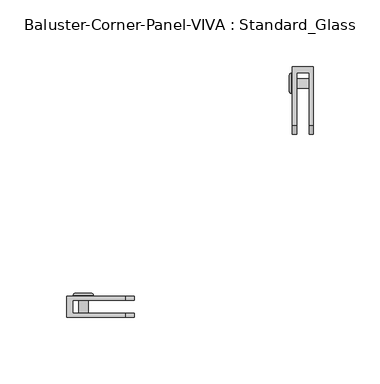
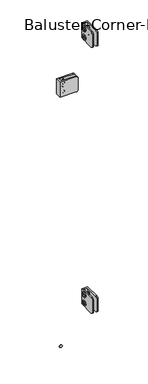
"""IFC4 building model written with IfcOpenShell, lengths in millimetres: railing geometry, Baluster-Corner-Panel-VIVA : Standard_Glass."""

from ifc_helpers import new_model, si_unit, point, frame, origin, place, context, project, spatial, polyline, circle_curve, ellipse_curve, trimmed, outline, extrude, source, transform, mapped, element, save
from ifc_brep_helpers import plane_surface, cylinder_surface, revolved_surface, advanced_brep


def baluster_corner_panel_viva_standard_glass_bf03b390(model_context):
    return source(origin(), model_context, "Body", "SolidModel", [
        extrude(outline(polyline([(140.0607691, 917.178125), (138.0138049, 913.6326791), (133.9198767, 913.6326791), (131.8729125, 917.178125), (133.9198767, 920.7235709), (138.0138049, 920.7235709), (140.0607691, 917.178125)])), frame((21.7024185, 0.0, 0.0), z_axis=(1.0, 0.0, 0.0), x_axis=(0.0, 1.0, 0.0)), (0.0, 0.0, 1.0), 1.4969696),
        advanced_brep(
        [(36.7665, 139.5122867, 917.178125), (36.7665, 132.4213949, 917.178125), (24.0665, 132.4213949, 917.178125), (24.0665, 139.5122867, 917.178125), (24.0665, 128.5590517, 917.178125), (24.0665, 143.3746299, 917.178125), (23.199388, 137.6229162, 917.178125), (23.199388, 134.3107654, 917.178125), (36.7665, 134.3107654, 917.178125), (36.7665, 137.6229162, 917.178125), (23.2316551, 143.3746299, 917.178125), (23.2316551, 128.5590517, 917.178125), (21.9503831, 129.8403237, 917.178125), (21.9503831, 142.0933579, 917.178125), (21.9503831, 131.6682453, 917.178125), (21.9503831, 140.2654363, 917.178125), (23.199388, 131.6682453, 917.178125), (23.199388, 140.2654363, 917.178125)],
        [
            (0, 1, circle_curve(frame((36.7665, 135.9668408, 917.178125), z_axis=(-1.0, 0.0, 0.0), x_axis=(0.0, -1.0, 0.0)), 3.5454459)),
            (1, 2),
            (2, 3, circle_curve(frame((24.0665, 135.9668408, 917.178125), z_axis=(1.0, 0.0, 0.0), x_axis=(0.0, -1.0, 0.0)), 3.5454459)),
            (3, 0),
            (1, 0, circle_curve(frame((36.7665, 135.9668408, 917.178125), z_axis=(-1.0, 0.0, 0.0), x_axis=(0.0, -1.0, 0.0)), 3.5454459)),
            (3, 2, circle_curve(frame((24.0665, 135.9668408, 917.178125), z_axis=(1.0, 0.0, 0.0), x_axis=(0.0, -1.0, 0.0)), 3.5454459)),
            (2, 4),
            (4, 5, circle_curve(frame((24.0665, 135.9668408, 917.178125), z_axis=(1.0, 0.0, 0.0), x_axis=(0.0, -1.0, 0.0)), 7.4077891)),
            (5, 3),
            (5, 4, circle_curve(frame((24.0665, 135.9668408, 917.178125), z_axis=(1.0, 0.0, 0.0), x_axis=(0.0, -1.0, 0.0)), 7.4077891)),
            (6, 7, circle_curve(frame((23.199388, 135.9668408, 917.178125), z_axis=(-1.0, 0.0, 0.0), x_axis=(0.0, -1.0, 0.0)), 1.6560754)),
            (7, 8),
            (8, 9, circle_curve(frame((36.7665, 135.9668408, 917.178125), z_axis=(1.0, 0.0, 0.0), x_axis=(0.0, -1.0, 0.0)), 1.6560754)),
            (9, 6),
            (7, 6, circle_curve(frame((23.199388, 135.9668408, 917.178125), z_axis=(-1.0, 0.0, 0.0), x_axis=(0.0, -1.0, 0.0)), 1.6560754)),
            (9, 8, circle_curve(frame((36.7665, 135.9668408, 917.178125), z_axis=(1.0, 0.0, 0.0), x_axis=(0.0, -1.0, 0.0)), 1.6560754)),
            (10, 11, circle_curve(frame((23.2316551, 135.9668408, 917.178125), z_axis=(-1.0, 0.0, 0.0), x_axis=(0.0, -1.0, 0.0)), 7.4077891)),
            (11, 12, circle_curve(frame((23.2316551, 129.8403237, 917.178125), z_axis=(0.0, 0.0, -1.0), x_axis=(0.0, -1.0, 0.0)), 1.281272)),
            (12, 13, circle_curve(frame((21.9503831, 135.9668408, 917.178125), z_axis=(1.0, 0.0, 0.0), x_axis=(0.0, -1.0, 0.0)), 6.1265171)),
            (13, 10, circle_curve(frame((23.2316551, 142.0933579, 917.178125), z_axis=(0.0, 0.0, -1.0), x_axis=(0.0, 1.0, 0.0)), 1.281272)),
            (11, 10, circle_curve(frame((23.2316551, 135.9668408, 917.178125), z_axis=(-1.0, 0.0, 0.0), x_axis=(0.0, -1.0, 0.0)), 7.4077891)),
            (13, 12, circle_curve(frame((21.9503831, 135.9668408, 917.178125), z_axis=(1.0, 0.0, 0.0), x_axis=(0.0, -1.0, 0.0)), 6.1265171)),
            (12, 14),
            (14, 15, circle_curve(frame((21.9503831, 135.9668408, 917.178125), z_axis=(1.0, 0.0, 0.0), x_axis=(0.0, -1.0, 0.0)), 4.2985955)),
            (15, 13),
            (15, 14, circle_curve(frame((21.9503831, 135.9668408, 917.178125), z_axis=(1.0, 0.0, 0.0), x_axis=(0.0, -1.0, 0.0)), 4.2985955)),
            (4, 11),
            (10, 5),
            (8, 1),
            (0, 9),
            (14, 16),
            (16, 17, circle_curve(frame((23.199388, 135.9668408, 917.178125), z_axis=(1.0, 0.0, 0.0), x_axis=(0.0, -1.0, 0.0)), 4.2985955)),
            (17, 15),
            (17, 16, circle_curve(frame((23.199388, 135.9668408, 917.178125), z_axis=(1.0, 0.0, 0.0), x_axis=(0.0, -1.0, 0.0)), 4.2985955)),
            (16, 7),
            (6, 17),
        ],
        [
            cylinder_surface(frame((27.5632331, 135.9668408, 917.178125), z_axis=(1.0, 0.0, 0.0), x_axis=(0.0, -1.0, 0.0)), 3.5454459),
            plane_surface(frame((24.0665, 135.9668408, 917.178125), z_axis=(1.0, 0.0, 0.0), x_axis=(0.0, -1.0, 0.0))),
            revolved_surface(polyline([(36.7665, 134.3107654, 917.178125), (23.199388, 134.3107654, 917.178125)]), (27.5632331, 135.9668408, 917.178125), (1.0, 0.0, 0.0)),
            revolved_surface(trimmed(ellipse_curve(frame((23.2316551, 129.8403237, 917.178125), z_axis=(0.0, 0.0, 1.0), x_axis=(0.0, -1.0, 0.0)), 1.281272, 1.281272), [point((21.9503831, 129.8403237, 917.178125))], [point((23.2316551, 128.5590517, 917.178125))], True, "CARTESIAN"), (27.5632331, 135.9668408, 917.178125), (1.0, 0.0, 0.0)),
            plane_surface(frame((21.9503831, 135.9668408, 917.178125), z_axis=(-1.0, 0.0, 0.0), x_axis=(0.0, -1.0, 0.0))),
            cylinder_surface(frame((27.5632331, 135.9668408, 917.178125), z_axis=(1.0, 0.0, 0.0), x_axis=(0.0, -1.0, 0.0)), 7.4077891),
            plane_surface(frame((36.7665, 135.9668408, 917.178125), z_axis=(1.0, 0.0, 0.0), x_axis=(0.0, -1.0, 0.0))),
            revolved_surface(polyline([(23.199388, 131.6682453, 917.178125), (21.9503831, 131.6682453, 917.178125)]), (27.5632331, 135.9668408, 917.178125), (1.0, 0.0, 0.0)),
            plane_surface(frame((23.199388, 135.9668408, 917.178125), z_axis=(-1.0, 0.0, 0.0), x_axis=(0.0, -1.0, 0.0))),
        ],
        [
            (0, [[1, 2, 3, 4]]),
            (0, [[5, -4, 6, -2]]),
            (1, [[-3, 7, 8, 9]]),
            (1, [[-6, -9, 10, -7]]),
            (2, [[11, 12, 13, 14]]),
            (2, [[15, -14, 16, -12]]),
            (3, [[17, 18, 19, 20]]),
            (3, [[21, -20, 22, -18]]),
            (4, [[-19, 23, 24, 25]]),
            (4, [[-22, -25, 26, -23]]),
            (5, [[-8, 27, -17, 28]]),
            (5, [[-10, -28, -21, -27]]),
            (6, [[-13, 29, -1, 30]]),
            (6, [[-16, -30, -5, -29]]),
            (7, [[-24, 31, 32, 33]]),
            (7, [[-26, -33, 34, -31]]),
            (8, [[-32, 35, -11, 36]]),
            (8, [[-34, -36, -15, -35]]),
        ],
    ),
        advanced_brep(
        [(36.7665, 139.5122867, 892.571875), (36.7665, 132.4213949, 892.571875), (24.0665, 132.4213949, 892.571875), (24.0665, 139.5122867, 892.571875), (24.0665, 128.5590517, 892.571875), (24.0665, 143.3746299, 892.571875), (23.199388, 137.6229162, 892.571875), (23.199388, 134.3107654, 892.571875), (36.7665, 134.3107654, 892.571875), (36.7665, 137.6229162, 892.571875), (23.2316551, 143.3746299, 892.571875), (23.2316551, 128.5590517, 892.571875), (21.9503831, 129.8403237, 892.571875), (21.9503831, 142.0933579, 892.571875), (21.9503831, 131.6682453, 892.571875), (21.9503831, 140.2654363, 892.571875), (23.199388, 131.6682453, 892.571875), (23.199388, 140.2654363, 892.571875)],
        [
            (0, 1, circle_curve(frame((36.7665, 135.9668408, 892.571875), z_axis=(-1.0, 0.0, 0.0), x_axis=(0.0, -1.0, 0.0)), 3.5454459)),
            (1, 2),
            (2, 3, circle_curve(frame((24.0665, 135.9668408, 892.571875), z_axis=(1.0, 0.0, 0.0), x_axis=(0.0, -1.0, 0.0)), 3.5454459)),
            (3, 0),
            (1, 0, circle_curve(frame((36.7665, 135.9668408, 892.571875), z_axis=(-1.0, 0.0, 0.0), x_axis=(0.0, -1.0, 0.0)), 3.5454459)),
            (3, 2, circle_curve(frame((24.0665, 135.9668408, 892.571875), z_axis=(1.0, 0.0, 0.0), x_axis=(0.0, -1.0, 0.0)), 3.5454459)),
            (2, 4),
            (4, 5, circle_curve(frame((24.0665, 135.9668408, 892.571875), z_axis=(1.0, 0.0, 0.0), x_axis=(0.0, -1.0, 0.0)), 7.4077891)),
            (5, 3),
            (5, 4, circle_curve(frame((24.0665, 135.9668408, 892.571875), z_axis=(1.0, 0.0, 0.0), x_axis=(0.0, -1.0, 0.0)), 7.4077891)),
            (6, 7, circle_curve(frame((23.199388, 135.9668408, 892.571875), z_axis=(-1.0, 0.0, 0.0), x_axis=(0.0, -1.0, 0.0)), 1.6560754)),
            (7, 8),
            (8, 9, circle_curve(frame((36.7665, 135.9668408, 892.571875), z_axis=(1.0, 0.0, 0.0), x_axis=(0.0, -1.0, 0.0)), 1.6560754)),
            (9, 6),
            (7, 6, circle_curve(frame((23.199388, 135.9668408, 892.571875), z_axis=(-1.0, 0.0, 0.0), x_axis=(0.0, -1.0, 0.0)), 1.6560754)),
            (9, 8, circle_curve(frame((36.7665, 135.9668408, 892.571875), z_axis=(1.0, 0.0, 0.0), x_axis=(0.0, -1.0, 0.0)), 1.6560754)),
            (10, 11, circle_curve(frame((23.2316551, 135.9668408, 892.571875), z_axis=(-1.0, 0.0, 0.0), x_axis=(0.0, -1.0, 0.0)), 7.4077891)),
            (11, 12, circle_curve(frame((23.2316551, 129.8403237, 892.571875), z_axis=(0.0, 0.0, -1.0), x_axis=(0.0, -1.0, 0.0)), 1.281272)),
            (12, 13, circle_curve(frame((21.9503831, 135.9668408, 892.571875), z_axis=(1.0, 0.0, 0.0), x_axis=(0.0, -1.0, 0.0)), 6.1265171)),
            (13, 10, circle_curve(frame((23.2316551, 142.0933579, 892.571875), z_axis=(0.0, 0.0, -1.0), x_axis=(0.0, 1.0, 0.0)), 1.281272)),
            (11, 10, circle_curve(frame((23.2316551, 135.9668408, 892.571875), z_axis=(-1.0, 0.0, 0.0), x_axis=(0.0, -1.0, 0.0)), 7.4077891)),
            (13, 12, circle_curve(frame((21.9503831, 135.9668408, 892.571875), z_axis=(1.0, 0.0, 0.0), x_axis=(0.0, -1.0, 0.0)), 6.1265171)),
            (12, 14),
            (14, 15, circle_curve(frame((21.9503831, 135.9668408, 892.571875), z_axis=(1.0, 0.0, 0.0), x_axis=(0.0, -1.0, 0.0)), 4.2985955)),
            (15, 13),
            (15, 14, circle_curve(frame((21.9503831, 135.9668408, 892.571875), z_axis=(1.0, 0.0, 0.0), x_axis=(0.0, -1.0, 0.0)), 4.2985955)),
            (8, 1),
            (0, 9),
            (4, 11),
            (10, 5),
            (14, 16),
            (16, 17, circle_curve(frame((23.199388, 135.9668408, 892.571875), z_axis=(1.0, 0.0, 0.0), x_axis=(0.0, -1.0, 0.0)), 4.2985955)),
            (17, 15),
            (17, 16, circle_curve(frame((23.199388, 135.9668408, 892.571875), z_axis=(1.0, 0.0, 0.0), x_axis=(0.0, -1.0, 0.0)), 4.2985955)),
            (16, 7),
            (6, 17),
        ],
        [
            cylinder_surface(frame((27.5632331, 135.9668408, 892.571875), z_axis=(1.0, 0.0, 0.0), x_axis=(0.0, -1.0, 0.0)), 3.5454459),
            plane_surface(frame((24.0665, 135.9668408, 892.571875), z_axis=(1.0, 0.0, 0.0), x_axis=(0.0, -1.0, 0.0))),
            revolved_surface(polyline([(36.7665, 134.3107654, 892.571875), (23.199388, 134.3107654, 892.571875)]), (27.5632331, 135.9668408, 892.571875), (1.0, 0.0, 0.0)),
            revolved_surface(trimmed(ellipse_curve(frame((23.2316551, 129.8403237, 892.571875), z_axis=(0.0, 0.0, 1.0), x_axis=(0.0, -1.0, 0.0)), 1.281272, 1.281272), [point((21.9503831, 129.8403237, 892.571875))], [point((23.2316551, 128.5590517, 892.571875))], True, "CARTESIAN"), (27.5632331, 135.9668408, 892.571875), (1.0, 0.0, 0.0)),
            plane_surface(frame((21.9503831, 135.9668408, 892.571875), z_axis=(-1.0, 0.0, 0.0), x_axis=(0.0, -1.0, 0.0))),
            plane_surface(frame((36.7665, 135.9668408, 892.571875), z_axis=(1.0, 0.0, 0.0), x_axis=(0.0, -1.0, 0.0))),
            cylinder_surface(frame((27.5632331, 135.9668408, 892.571875), z_axis=(1.0, 0.0, 0.0), x_axis=(0.0, -1.0, 0.0)), 7.4077891),
            revolved_surface(polyline([(23.199388, 131.6682453, 892.571875), (21.9503831, 131.6682453, 892.571875)]), (27.5632331, 135.9668408, 892.571875), (1.0, 0.0, 0.0)),
            plane_surface(frame((23.199388, 135.9668408, 892.571875), z_axis=(-1.0, 0.0, 0.0), x_axis=(0.0, -1.0, 0.0))),
        ],
        [
            (0, [[1, 2, 3, 4]]),
            (0, [[5, -4, 6, -2]]),
            (1, [[-3, 7, 8, 9]]),
            (1, [[-6, -9, 10, -7]]),
            (2, [[11, 12, 13, 14]]),
            (2, [[15, -14, 16, -12]]),
            (3, [[17, 18, 19, 20]]),
            (3, [[21, -20, 22, -18]]),
            (4, [[-19, 23, 24, 25]]),
            (4, [[-22, -25, 26, -23]]),
            (5, [[-13, 27, -1, 28]]),
            (5, [[-16, -28, -5, -27]]),
            (6, [[-8, 29, -17, 30]]),
            (6, [[-10, -30, -21, -29]]),
            (7, [[-24, 31, 32, 33]]),
            (7, [[-26, -33, 34, -31]]),
            (8, [[-32, 35, -11, 36]]),
            (8, [[-34, -36, -15, -35]]),
        ],
    ),
        extrude(outline(polyline([(140.0607691, 892.571875), (138.0138049, 889.0264291), (133.9198767, 889.0264291), (131.8729125, 892.571875), (133.9198767, 896.1173209), (138.0138049, 896.1173209), (140.0607691, 892.571875)])), frame((21.7024185, 0.0, 0.0), z_axis=(1.0, 0.0, 0.0), x_axis=(0.0, 1.0, 0.0)), (0.0, 0.0, 1.0), 1.4969696),
        advanced_brep(
        [(24.0665, 148.6001856, 927.1), (24.0665, 148.6001856, 882.65), (24.0665, 104.1501856, 882.65), (24.0665, 97.8001856, 889.0), (24.0665, 97.8001856, 920.75), (24.0665, 104.1501856, 927.1), (39.9415, 148.6001856, 927.1), (39.9415, 104.1501856, 927.1), (39.9415, 97.8001856, 920.75), (39.9415, 97.8001856, 889.0), (39.9415, 104.1501856, 882.65), (39.9415, 148.6001856, 882.65), (36.7665, 104.1501856, 882.65), (36.7665, 143.8821052, 882.65), (27.2415, 143.8821052, 882.65), (27.2415, 104.1501856, 882.65), (36.7665, 143.8821052, 927.1), (27.2415, 143.8821052, 927.1), (27.2415, 104.1501856, 927.1), (27.2415, 97.8001856, 920.75), (27.2415, 97.8001856, 889.0), (36.7665, 97.8001856, 889.0), (36.7665, 97.8001856, 920.75), (36.7665, 104.1501856, 927.1)],
        [
            (0, 1),
            (1, 2),
            (2, 3, circle_curve(frame((24.0665, 104.1501856, 889.0), z_axis=(-1.0, 0.0, 0.0), x_axis=(0.0, -1.0, 0.0)), 6.35)),
            (3, 4),
            (4, 5, circle_curve(frame((24.0665, 104.1501856, 920.75), z_axis=(-1.0, 0.0, 0.0), x_axis=(0.0, -1.0, 0.0)), 6.35)),
            (5, 0),
            (6, 7),
            (7, 8, circle_curve(frame((39.9415, 104.1501856, 920.75), z_axis=(1.0, 0.0, 0.0), x_axis=(0.0, -1.0, 0.0)), 6.35)),
            (8, 9),
            (9, 10, circle_curve(frame((39.9415, 104.1501856, 889.0), z_axis=(1.0, 0.0, 0.0), x_axis=(0.0, -1.0, 0.0)), 6.35)),
            (10, 11),
            (11, 6),
            (0, 6),
            (11, 1),
            (10, 12),
            (12, 13),
            (13, 14),
            (14, 15),
            (15, 2),
            (13, 16),
            (16, 17),
            (17, 14),
            (17, 18),
            (18, 19, circle_curve(frame((27.2415, 104.1501856, 920.75), z_axis=(1.0, 0.0, 0.0), x_axis=(0.0, -1.0, 0.0)), 6.35)),
            (19, 20),
            (20, 15, circle_curve(frame((27.2415, 104.1501856, 889.0), z_axis=(1.0, 0.0, 0.0), x_axis=(0.0, -1.0, 0.0)), 6.35)),
            (12, 21, circle_curve(frame((36.7665, 104.1501856, 889.0), z_axis=(-1.0, 0.0, 0.0), x_axis=(0.0, -1.0, 0.0)), 6.35)),
            (21, 22),
            (22, 23, circle_curve(frame((36.7665, 104.1501856, 920.75), z_axis=(-1.0, 0.0, 0.0), x_axis=(0.0, -1.0, 0.0)), 6.35)),
            (23, 16),
            (20, 3),
            (9, 21),
            (19, 4),
            (8, 22),
            (18, 5),
            (7, 23),
        ],
        [
            plane_surface(frame((24.0665, 148.6001856, 882.65), z_axis=(-1.0, 0.0, 0.0), x_axis=(0.0, 0.0, -1.0))),
            plane_surface(frame((39.9415, 148.6001856, 882.65), z_axis=(1.0, 0.0, 0.0), x_axis=(0.0, 0.0, 1.0))),
            plane_surface(frame((24.0665, 148.6001856, 927.1), z_axis=(0.0, 1.0, 0.0), x_axis=(1.0, 0.0, 0.0))),
            plane_surface(frame((24.0665, 148.6001856, 882.65), z_axis=(0.0, 0.0, -1.0), x_axis=(1.0, 0.0, 0.0))),
            plane_surface(frame((36.7665, 143.8821052, 939.8), z_axis=(0.0, -1.0, 0.0), x_axis=(0.0, 0.0, -1.0))),
            plane_surface(frame((27.2415, 143.8821052, 939.8), z_axis=(1.0, 0.0, 0.0), x_axis=(0.0, 0.0, -1.0))),
            plane_surface(frame((36.7665, 85.1001856, 939.8), z_axis=(-1.0, 0.0, 0.0), x_axis=(0.0, 0.0, -1.0))),
            cylinder_surface(frame((39.9415, 104.1501856, 889.0), z_axis=(-1.0, 0.0, 0.0), x_axis=(0.0, -1.0, 0.0)), 6.35),
            plane_surface(frame((24.0665, 97.8001856, 889.0), z_axis=(0.0, -1.0, 0.0), x_axis=(1.0, 0.0, 0.0))),
            cylinder_surface(frame((39.9415, 104.1501856, 920.75), z_axis=(-1.0, 0.0, 0.0), x_axis=(0.0, -1.0, 0.0)), 6.35),
            plane_surface(frame((24.0665, 104.1501856, 927.1), z_axis=(0.0, 0.0, 1.0), x_axis=(1.0, 0.0, 0.0))),
        ],
        [
            (0, [[1, 2, 3, 4, 5, 6]]),
            (1, [[7, 8, 9, 10, 11, 12]]),
            (2, [[-1, 13, -12, 14]]),
            (3, [[-2, -14, -11, 15, 16, 17, 18, 19]]),
            (4, [[20, 21, 22, -17]]),
            (5, [[-22, 23, 24, 25, 26, -18]]),
            (6, [[-20, -16, 27, 28, 29, 30]]),
            (7, [[-3, -19, -26, 31]]),
            (7, [[-10, 32, -27, -15]]),
            (8, [[-4, -31, -25, 33]]),
            (8, [[-9, 34, -28, -32]]),
            (9, [[-5, -33, -24, 35]]),
            (9, [[-8, 36, -29, -34]]),
            (10, [[-6, -35, -23, -21, -30, -36, -7, -13]]),
        ],
    ),
        extrude(outline(polyline([(140.0607691, 138.7358896), (138.0138049, 135.1904437), (133.9198767, 135.1904437), (131.8729125, 138.7358896), (133.9198767, 142.2813355), (138.0138049, 142.2813355), (140.0607691, 138.7358896)])), frame((21.7024185, 0.0, 0.0), z_axis=(1.0, 0.0, 0.0), x_axis=(0.0, 1.0, 0.0)), (0.0, 0.0, 1.0), 1.4969696),
        advanced_brep(
        [(36.7665, 139.5122867, 138.7358896), (36.7665, 132.4213949, 138.7358896), (24.0665, 132.4213949, 138.7358896), (24.0665, 139.5122867, 138.7358896), (24.0665, 128.5590517, 138.7358896), (24.0665, 143.3746299, 138.7358896), (23.199388, 137.6229162, 138.7358896), (23.199388, 134.3107654, 138.7358896), (36.7665, 134.3107654, 138.7358896), (36.7665, 137.6229162, 138.7358896), (23.2316551, 143.3746299, 138.7358896), (23.2316551, 128.5590517, 138.7358896), (21.9503831, 129.8403237, 138.7358896), (21.9503831, 142.0933579, 138.7358896), (21.9503831, 131.6682453, 138.7358896), (21.9503831, 140.2654363, 138.7358896), (23.199388, 131.6682453, 138.7358896), (23.199388, 140.2654363, 138.7358896)],
        [
            (0, 1, circle_curve(frame((36.7665, 135.9668408, 138.7358896), z_axis=(-1.0, 0.0, 0.0), x_axis=(0.0, -1.0, 0.0)), 3.5454459)),
            (1, 2),
            (2, 3, circle_curve(frame((24.0665, 135.9668408, 138.7358896), z_axis=(1.0, 0.0, 0.0), x_axis=(0.0, -1.0, 0.0)), 3.5454459)),
            (3, 0),
            (1, 0, circle_curve(frame((36.7665, 135.9668408, 138.7358896), z_axis=(-1.0, 0.0, 0.0), x_axis=(0.0, -1.0, 0.0)), 3.5454459)),
            (3, 2, circle_curve(frame((24.0665, 135.9668408, 138.7358896), z_axis=(1.0, 0.0, 0.0), x_axis=(0.0, -1.0, 0.0)), 3.5454459)),
            (2, 4),
            (4, 5, circle_curve(frame((24.0665, 135.9668408, 138.7358896), z_axis=(1.0, 0.0, 0.0), x_axis=(0.0, -1.0, 0.0)), 7.4077891)),
            (5, 3),
            (5, 4, circle_curve(frame((24.0665, 135.9668408, 138.7358896), z_axis=(1.0, 0.0, 0.0), x_axis=(0.0, -1.0, 0.0)), 7.4077891)),
            (6, 7, circle_curve(frame((23.199388, 135.9668408, 138.7358896), z_axis=(-1.0, 0.0, 0.0), x_axis=(0.0, -1.0, 0.0)), 1.6560754)),
            (7, 8),
            (8, 9, circle_curve(frame((36.7665, 135.9668408, 138.7358896), z_axis=(1.0, 0.0, 0.0), x_axis=(0.0, -1.0, 0.0)), 1.6560754)),
            (9, 6),
            (7, 6, circle_curve(frame((23.199388, 135.9668408, 138.7358896), z_axis=(-1.0, 0.0, 0.0), x_axis=(0.0, -1.0, 0.0)), 1.6560754)),
            (9, 8, circle_curve(frame((36.7665, 135.9668408, 138.7358896), z_axis=(1.0, 0.0, 0.0), x_axis=(0.0, -1.0, 0.0)), 1.6560754)),
            (10, 11, circle_curve(frame((23.2316551, 135.9668408, 138.7358896), z_axis=(-1.0, 0.0, 0.0), x_axis=(0.0, -1.0, 0.0)), 7.4077891)),
            (11, 12, circle_curve(frame((23.2316551, 129.8403237, 138.7358896), z_axis=(0.0, 0.0, -1.0), x_axis=(0.0, -1.0, 0.0)), 1.281272)),
            (12, 13, circle_curve(frame((21.9503831, 135.9668408, 138.7358896), z_axis=(1.0, 0.0, 0.0), x_axis=(0.0, -1.0, 0.0)), 6.1265171)),
            (13, 10, circle_curve(frame((23.2316551, 142.0933579, 138.7358896), z_axis=(0.0, 0.0, -1.0), x_axis=(0.0, 1.0, 0.0)), 1.281272)),
            (11, 10, circle_curve(frame((23.2316551, 135.9668408, 138.7358896), z_axis=(-1.0, 0.0, 0.0), x_axis=(0.0, -1.0, 0.0)), 7.4077891)),
            (13, 12, circle_curve(frame((21.9503831, 135.9668408, 138.7358896), z_axis=(1.0, 0.0, 0.0), x_axis=(0.0, -1.0, 0.0)), 6.1265171)),
            (12, 14),
            (14, 15, circle_curve(frame((21.9503831, 135.9668408, 138.7358896), z_axis=(1.0, 0.0, 0.0), x_axis=(0.0, -1.0, 0.0)), 4.2985955)),
            (15, 13),
            (15, 14, circle_curve(frame((21.9503831, 135.9668408, 138.7358896), z_axis=(1.0, 0.0, 0.0), x_axis=(0.0, -1.0, 0.0)), 4.2985955)),
            (4, 11),
            (10, 5),
            (8, 1),
            (0, 9),
            (14, 16),
            (16, 17, circle_curve(frame((23.199388, 135.9668408, 138.7358896), z_axis=(1.0, 0.0, 0.0), x_axis=(0.0, -1.0, 0.0)), 4.2985955)),
            (17, 15),
            (17, 16, circle_curve(frame((23.199388, 135.9668408, 138.7358896), z_axis=(1.0, 0.0, 0.0), x_axis=(0.0, -1.0, 0.0)), 4.2985955)),
            (16, 7),
            (6, 17),
        ],
        [
            cylinder_surface(frame((27.5632331, 135.9668408, 138.7358896), z_axis=(1.0, 0.0, 0.0), x_axis=(0.0, -1.0, 0.0)), 3.5454459),
            plane_surface(frame((24.0665, 135.9668408, 138.7358896), z_axis=(1.0, 0.0, 0.0), x_axis=(0.0, -1.0, 0.0))),
            revolved_surface(polyline([(36.7665, 134.3107654, 138.7358896), (23.199388, 134.3107654, 138.7358896)]), (27.5632331, 135.9668408, 138.7358896), (1.0, 0.0, 0.0)),
            revolved_surface(trimmed(ellipse_curve(frame((23.2316551, 129.8403237, 138.7358896), z_axis=(0.0, 0.0, 1.0), x_axis=(0.0, -1.0, 0.0)), 1.281272, 1.281272), [point((21.9503831, 129.8403237, 138.7358896))], [point((23.2316551, 128.5590517, 138.7358896))], True, "CARTESIAN"), (27.5632331, 135.9668408, 138.7358896), (1.0, 0.0, 0.0)),
            plane_surface(frame((21.9503831, 135.9668408, 138.7358896), z_axis=(-1.0, 0.0, 0.0), x_axis=(0.0, -1.0, 0.0))),
            cylinder_surface(frame((27.5632331, 135.9668408, 138.7358896), z_axis=(1.0, 0.0, 0.0), x_axis=(0.0, -1.0, 0.0)), 7.4077891),
            plane_surface(frame((36.7665, 135.9668408, 138.7358896), z_axis=(1.0, 0.0, 0.0), x_axis=(0.0, -1.0, 0.0))),
            revolved_surface(polyline([(23.199388, 131.6682453, 138.7358896), (21.9503831, 131.6682453, 138.7358896)]), (27.5632331, 135.9668408, 138.7358896), (1.0, 0.0, 0.0)),
            plane_surface(frame((23.199388, 135.9668408, 138.7358896), z_axis=(-1.0, 0.0, 0.0), x_axis=(0.0, -1.0, 0.0))),
        ],
        [
            (0, [[1, 2, 3, 4]]),
            (0, [[5, -4, 6, -2]]),
            (1, [[-3, 7, 8, 9]]),
            (1, [[-6, -9, 10, -7]]),
            (2, [[11, 12, 13, 14]]),
            (2, [[15, -14, 16, -12]]),
            (3, [[17, 18, 19, 20]]),
            (3, [[21, -20, 22, -18]]),
            (4, [[-19, 23, 24, 25]]),
            (4, [[-22, -25, 26, -23]]),
            (5, [[-8, 27, -17, 28]]),
            (5, [[-10, -28, -21, -27]]),
            (6, [[-13, 29, -1, 30]]),
            (6, [[-16, -30, -5, -29]]),
            (7, [[-24, 31, 32, 33]]),
            (7, [[-26, -33, 34, -31]]),
            (8, [[-32, 35, -11, 36]]),
            (8, [[-34, -36, -15, -35]]),
        ],
    ),
        advanced_brep(
        [(36.7665, 139.5122867, 114.1296396), (36.7665, 132.4213949, 114.1296396), (24.0665, 132.4213949, 114.1296396), (24.0665, 139.5122867, 114.1296396), (24.0665, 128.5590517, 114.1296396), (24.0665, 143.3746299, 114.1296396), (23.199388, 137.6229162, 114.1296396), (23.199388, 134.3107654, 114.1296396), (36.7665, 134.3107654, 114.1296396), (36.7665, 137.6229162, 114.1296396), (23.2316551, 143.3746299, 114.1296396), (23.2316551, 128.5590517, 114.1296396), (21.9503831, 129.8403237, 114.1296396), (21.9503831, 142.0933579, 114.1296396), (21.9503831, 131.6682453, 114.1296396), (21.9503831, 140.2654363, 114.1296396), (23.199388, 131.6682453, 114.1296396), (23.199388, 140.2654363, 114.1296396)],
        [
            (0, 1, circle_curve(frame((36.7665, 135.9668408, 114.1296396), z_axis=(-1.0, 0.0, 0.0), x_axis=(0.0, -1.0, 0.0)), 3.5454459)),
            (1, 2),
            (2, 3, circle_curve(frame((24.0665, 135.9668408, 114.1296396), z_axis=(1.0, 0.0, 0.0), x_axis=(0.0, -1.0, 0.0)), 3.5454459)),
            (3, 0),
            (1, 0, circle_curve(frame((36.7665, 135.9668408, 114.1296396), z_axis=(-1.0, 0.0, 0.0), x_axis=(0.0, -1.0, 0.0)), 3.5454459)),
            (3, 2, circle_curve(frame((24.0665, 135.9668408, 114.1296396), z_axis=(1.0, 0.0, 0.0), x_axis=(0.0, -1.0, 0.0)), 3.5454459)),
            (2, 4),
            (4, 5, circle_curve(frame((24.0665, 135.9668408, 114.1296396), z_axis=(1.0, 0.0, 0.0), x_axis=(0.0, -1.0, 0.0)), 7.4077891)),
            (5, 3),
            (5, 4, circle_curve(frame((24.0665, 135.9668408, 114.1296396), z_axis=(1.0, 0.0, 0.0), x_axis=(0.0, -1.0, 0.0)), 7.4077891)),
            (6, 7, circle_curve(frame((23.199388, 135.9668408, 114.1296396), z_axis=(-1.0, 0.0, 0.0), x_axis=(0.0, -1.0, 0.0)), 1.6560754)),
            (7, 8),
            (8, 9, circle_curve(frame((36.7665, 135.9668408, 114.1296396), z_axis=(1.0, 0.0, 0.0), x_axis=(0.0, -1.0, 0.0)), 1.6560754)),
            (9, 6),
            (7, 6, circle_curve(frame((23.199388, 135.9668408, 114.1296396), z_axis=(-1.0, 0.0, 0.0), x_axis=(0.0, -1.0, 0.0)), 1.6560754)),
            (9, 8, circle_curve(frame((36.7665, 135.9668408, 114.1296396), z_axis=(1.0, 0.0, 0.0), x_axis=(0.0, -1.0, 0.0)), 1.6560754)),
            (10, 11, circle_curve(frame((23.2316551, 135.9668408, 114.1296396), z_axis=(-1.0, 0.0, 0.0), x_axis=(0.0, -1.0, 0.0)), 7.4077891)),
            (11, 12, circle_curve(frame((23.2316551, 129.8403237, 114.1296396), z_axis=(0.0, 0.0, -1.0), x_axis=(0.0, -1.0, 0.0)), 1.281272)),
            (12, 13, circle_curve(frame((21.9503831, 135.9668408, 114.1296396), z_axis=(1.0, 0.0, 0.0), x_axis=(0.0, -1.0, 0.0)), 6.1265171)),
            (13, 10, circle_curve(frame((23.2316551, 142.0933579, 114.1296396), z_axis=(0.0, 0.0, -1.0), x_axis=(0.0, 1.0, 0.0)), 1.281272)),
            (11, 10, circle_curve(frame((23.2316551, 135.9668408, 114.1296396), z_axis=(-1.0, 0.0, 0.0), x_axis=(0.0, -1.0, 0.0)), 7.4077891)),
            (13, 12, circle_curve(frame((21.9503831, 135.9668408, 114.1296396), z_axis=(1.0, 0.0, 0.0), x_axis=(0.0, -1.0, 0.0)), 6.1265171)),
            (12, 14),
            (14, 15, circle_curve(frame((21.9503831, 135.9668408, 114.1296396), z_axis=(1.0, 0.0, 0.0), x_axis=(0.0, -1.0, 0.0)), 4.2985955)),
            (15, 13),
            (15, 14, circle_curve(frame((21.9503831, 135.9668408, 114.1296396), z_axis=(1.0, 0.0, 0.0), x_axis=(0.0, -1.0, 0.0)), 4.2985955)),
            (8, 1),
            (0, 9),
            (4, 11),
            (10, 5),
            (14, 16),
            (16, 17, circle_curve(frame((23.199388, 135.9668408, 114.1296396), z_axis=(1.0, 0.0, 0.0), x_axis=(0.0, -1.0, 0.0)), 4.2985955)),
            (17, 15),
            (17, 16, circle_curve(frame((23.199388, 135.9668408, 114.1296396), z_axis=(1.0, 0.0, 0.0), x_axis=(0.0, -1.0, 0.0)), 4.2985955)),
            (16, 7),
            (6, 17),
        ],
        [
            cylinder_surface(frame((27.5632331, 135.9668408, 114.1296396), z_axis=(1.0, 0.0, 0.0), x_axis=(0.0, -1.0, 0.0)), 3.5454459),
            plane_surface(frame((24.0665, 135.9668408, 114.1296396), z_axis=(1.0, 0.0, 0.0), x_axis=(0.0, -1.0, 0.0))),
            revolved_surface(polyline([(36.7665, 134.3107654, 114.1296396), (23.199388, 134.3107654, 114.1296396)]), (27.5632331, 135.9668408, 114.1296396), (1.0, 0.0, 0.0)),
            revolved_surface(trimmed(ellipse_curve(frame((23.2316551, 129.8403237, 114.1296396), z_axis=(0.0, 0.0, 1.0), x_axis=(0.0, -1.0, 0.0)), 1.281272, 1.281272), [point((21.9503831, 129.8403237, 114.1296396))], [point((23.2316551, 128.5590517, 114.1296396))], True, "CARTESIAN"), (27.5632331, 135.9668408, 114.1296396), (1.0, 0.0, 0.0)),
            plane_surface(frame((21.9503831, 135.9668408, 114.1296396), z_axis=(-1.0, 0.0, 0.0), x_axis=(0.0, -1.0, 0.0))),
            plane_surface(frame((36.7665, 135.9668408, 114.1296396), z_axis=(1.0, 0.0, 0.0), x_axis=(0.0, -1.0, 0.0))),
            cylinder_surface(frame((27.5632331, 135.9668408, 114.1296396), z_axis=(1.0, 0.0, 0.0), x_axis=(0.0, -1.0, 0.0)), 7.4077891),
            revolved_surface(polyline([(23.199388, 131.6682453, 114.1296396), (21.9503831, 131.6682453, 114.1296396)]), (27.5632331, 135.9668408, 114.1296396), (1.0, 0.0, 0.0)),
            plane_surface(frame((23.199388, 135.9668408, 114.1296396), z_axis=(-1.0, 0.0, 0.0), x_axis=(0.0, -1.0, 0.0))),
        ],
        [
            (0, [[1, 2, 3, 4]]),
            (0, [[5, -4, 6, -2]]),
            (1, [[-3, 7, 8, 9]]),
            (1, [[-6, -9, 10, -7]]),
            (2, [[11, 12, 13, 14]]),
            (2, [[15, -14, 16, -12]]),
            (3, [[17, 18, 19, 20]]),
            (3, [[21, -20, 22, -18]]),
            (4, [[-19, 23, 24, 25]]),
            (4, [[-22, -25, 26, -23]]),
            (5, [[-13, 27, -1, 28]]),
            (5, [[-16, -28, -5, -27]]),
            (6, [[-8, 29, -17, 30]]),
            (6, [[-10, -30, -21, -29]]),
            (7, [[-24, 31, 32, 33]]),
            (7, [[-26, -33, 34, -31]]),
            (8, [[-32, 35, -11, 36]]),
            (8, [[-34, -36, -15, -35]]),
        ],
    ),
        extrude(outline(polyline([(140.0607691, 114.1296396), (138.0138049, 110.5841937), (133.9198767, 110.5841937), (131.8729125, 114.1296396), (133.9198767, 117.6750855), (138.0138049, 117.6750855), (140.0607691, 114.1296396)])), frame((21.7024185, 0.0, 0.0), z_axis=(1.0, 0.0, 0.0), x_axis=(0.0, 1.0, 0.0)), (0.0, 0.0, 1.0), 1.4969696),
        advanced_brep(
        [(24.0665, 148.6001856, 148.6577646), (24.0665, 148.6001856, 104.2077646), (24.0665, 104.1501856, 104.2077646), (24.0665, 97.8001856, 110.5577646), (24.0665, 97.8001856, 142.3077646), (24.0665, 104.1501856, 148.6577646), (39.9415, 148.6001856, 148.6577646), (39.9415, 104.1501856, 148.6577646), (39.9415, 97.8001856, 142.3077646), (39.9415, 97.8001856, 110.5577646), (39.9415, 104.1501856, 104.2077646), (39.9415, 148.6001856, 104.2077646), (36.7665, 104.1501856, 104.2077646), (36.7665, 143.8821052, 104.2077646), (27.2415, 143.8821052, 104.2077646), (27.2415, 104.1501856, 104.2077646), (36.7665, 143.8821052, 148.6577646), (27.2415, 143.8821052, 148.6577646), (27.2415, 104.1501856, 148.6577646), (27.2415, 97.8001856, 142.3077646), (27.2415, 97.8001856, 110.5577646), (36.7665, 97.8001856, 110.5577646), (36.7665, 97.8001856, 142.3077646), (36.7665, 104.1501856, 148.6577646)],
        [
            (0, 1),
            (1, 2),
            (2, 3, circle_curve(frame((24.0665, 104.1501856, 110.5577646), z_axis=(-1.0, 0.0, 0.0), x_axis=(0.0, -1.0, 0.0)), 6.35)),
            (3, 4),
            (4, 5, circle_curve(frame((24.0665, 104.1501856, 142.3077646), z_axis=(-1.0, 0.0, 0.0), x_axis=(0.0, -1.0, 0.0)), 6.35)),
            (5, 0),
            (6, 7),
            (7, 8, circle_curve(frame((39.9415, 104.1501856, 142.3077646), z_axis=(1.0, 0.0, 0.0), x_axis=(0.0, -1.0, 0.0)), 6.35)),
            (8, 9),
            (9, 10, circle_curve(frame((39.9415, 104.1501856, 110.5577646), z_axis=(1.0, 0.0, 0.0), x_axis=(0.0, -1.0, 0.0)), 6.35)),
            (10, 11),
            (11, 6),
            (0, 6),
            (11, 1),
            (10, 12),
            (12, 13),
            (13, 14),
            (14, 15),
            (15, 2),
            (13, 16),
            (16, 17),
            (17, 14),
            (17, 18),
            (18, 19, circle_curve(frame((27.2415, 104.1501856, 142.3077646), z_axis=(1.0, 0.0, 0.0), x_axis=(0.0, -1.0, 0.0)), 6.35)),
            (19, 20),
            (20, 15, circle_curve(frame((27.2415, 104.1501856, 110.5577646), z_axis=(1.0, 0.0, 0.0), x_axis=(0.0, -1.0, 0.0)), 6.35)),
            (12, 21, circle_curve(frame((36.7665, 104.1501856, 110.5577646), z_axis=(-1.0, 0.0, 0.0), x_axis=(0.0, -1.0, 0.0)), 6.35)),
            (21, 22),
            (22, 23, circle_curve(frame((36.7665, 104.1501856, 142.3077646), z_axis=(-1.0, 0.0, 0.0), x_axis=(0.0, -1.0, 0.0)), 6.35)),
            (23, 16),
            (20, 3),
            (9, 21),
            (19, 4),
            (8, 22),
            (18, 5),
            (7, 23),
        ],
        [
            plane_surface(frame((24.0665, 148.6001856, 104.2077646), z_axis=(-1.0, 0.0, 0.0), x_axis=(0.0, 0.0, -1.0))),
            plane_surface(frame((39.9415, 148.6001856, 104.2077646), z_axis=(1.0, 0.0, 0.0), x_axis=(0.0, 0.0, 1.0))),
            plane_surface(frame((24.0665, 148.6001856, 148.6577646), z_axis=(0.0, 1.0, 0.0), x_axis=(1.0, 0.0, 0.0))),
            plane_surface(frame((24.0665, 148.6001856, 104.2077646), z_axis=(0.0, 0.0, -1.0), x_axis=(1.0, 0.0, 0.0))),
            plane_surface(frame((36.7665, 143.8821052, 161.3577646), z_axis=(0.0, -1.0, 0.0), x_axis=(0.0, 0.0, -1.0))),
            plane_surface(frame((27.2415, 143.8821052, 161.3577646), z_axis=(1.0, 0.0, 0.0), x_axis=(0.0, 0.0, -1.0))),
            plane_surface(frame((36.7665, 85.1001856, 161.3577646), z_axis=(-1.0, 0.0, 0.0), x_axis=(0.0, 0.0, -1.0))),
            cylinder_surface(frame((39.9415, 104.1501856, 110.5577646), z_axis=(-1.0, 0.0, 0.0), x_axis=(0.0, -1.0, 0.0)), 6.35),
            plane_surface(frame((24.0665, 97.8001856, 110.5577646), z_axis=(0.0, -1.0, 0.0), x_axis=(1.0, 0.0, 0.0))),
            cylinder_surface(frame((39.9415, 104.1501856, 142.3077646), z_axis=(-1.0, 0.0, 0.0), x_axis=(0.0, -1.0, 0.0)), 6.35),
            plane_surface(frame((24.0665, 104.1501856, 148.6577646), z_axis=(0.0, 0.0, 1.0), x_axis=(1.0, 0.0, 0.0))),
        ],
        [
            (0, [[1, 2, 3, 4, 5, 6]]),
            (1, [[7, 8, 9, 10, 11, 12]]),
            (2, [[-1, 13, -12, 14]]),
            (3, [[-2, -14, -11, 15, 16, 17, 18, 19]]),
            (4, [[20, 21, 22, -17]]),
            (5, [[-22, 23, 24, 25, 26, -18]]),
            (6, [[-20, -16, 27, 28, 29, 30]]),
            (7, [[-3, -19, -26, 31]]),
            (7, [[-10, 32, -27, -15]]),
            (8, [[-4, -31, -25, 33]]),
            (8, [[-9, 34, -28, -32]]),
            (9, [[-5, -33, -24, 35]]),
            (9, [[-8, 36, -29, -34]]),
            (10, [[-6, -35, -23, -21, -30, -36, -7, -13]]),
        ],
    ),
        extrude(outline(polyline([(917.178125, -137.1291436), (913.6326791, -135.0821795), (913.6326791, -130.9882512), (917.178125, -128.941287), (920.7235709, -130.9882512), (920.7235709, -135.0821795), (917.178125, -137.1291436)])), frame((0.0, -23.199388, 0.0), z_axis=(0.0, 1.0, 0.0), x_axis=(0.0, 0.0, 1.0)), (0.0, 0.0, 1.0), 1.4969696),
        advanced_brep(
        [(-136.5806612, -36.7665, 917.178125), (-136.5806612, -24.0665, 917.178125), (-129.4897694, -24.0665, 917.178125), (-129.4897694, -36.7665, 917.178125), (-140.4430044, -24.0665, 917.178125), (-125.6274262, -24.0665, 917.178125), (-134.6912907, -23.199388, 917.178125), (-134.6912907, -36.7665, 917.178125), (-131.3791399, -36.7665, 917.178125), (-131.3791399, -23.199388, 917.178125), (-140.4430044, -23.2316551, 917.178125), (-139.1617324, -21.9503831, 917.178125), (-126.9086983, -21.9503831, 917.178125), (-125.6274262, -23.2316551, 917.178125), (-137.3338109, -21.9503831, 917.178125), (-128.7366198, -21.9503831, 917.178125), (-137.3338109, -23.199388, 917.178125), (-128.7366198, -23.199388, 917.178125)],
        [
            (0, 1),
            (1, 2, circle_curve(frame((-133.0352153, -24.0665, 917.178125), z_axis=(0.0, -1.0, 0.0), x_axis=(1.0, 0.0, 0.0)), 3.5454459)),
            (2, 3),
            (3, 0, circle_curve(frame((-133.0352153, -36.7665, 917.178125), z_axis=(0.0, 1.0, 0.0), x_axis=(1.0, 0.0, 0.0)), 3.5454459)),
            (2, 1, circle_curve(frame((-133.0352153, -24.0665, 917.178125), z_axis=(0.0, -1.0, 0.0), x_axis=(1.0, 0.0, 0.0)), 3.5454459)),
            (0, 3, circle_curve(frame((-133.0352153, -36.7665, 917.178125), z_axis=(0.0, 1.0, 0.0), x_axis=(1.0, 0.0, 0.0)), 3.5454459)),
            (1, 4),
            (4, 5, circle_curve(frame((-133.0352153, -24.0665, 917.178125), z_axis=(0.0, -1.0, 0.0), x_axis=(1.0, 0.0, 0.0)), 7.4077891)),
            (5, 2),
            (5, 4, circle_curve(frame((-133.0352153, -24.0665, 917.178125), z_axis=(0.0, -1.0, 0.0), x_axis=(1.0, 0.0, 0.0)), 7.4077891)),
            (6, 7),
            (7, 8, circle_curve(frame((-133.0352153, -36.7665, 917.178125), z_axis=(0.0, -1.0, 0.0), x_axis=(1.0, 0.0, 0.0)), 1.6560754)),
            (8, 9),
            (9, 6, circle_curve(frame((-133.0352153, -23.199388, 917.178125), z_axis=(0.0, 1.0, 0.0), x_axis=(1.0, 0.0, 0.0)), 1.6560754)),
            (8, 7, circle_curve(frame((-133.0352153, -36.7665, 917.178125), z_axis=(0.0, -1.0, 0.0), x_axis=(1.0, 0.0, 0.0)), 1.6560754)),
            (6, 9, circle_curve(frame((-133.0352153, -23.199388, 917.178125), z_axis=(0.0, 1.0, 0.0), x_axis=(1.0, 0.0, 0.0)), 1.6560754)),
            (10, 11, circle_curve(frame((-139.1617324, -23.2316551, 917.178125), z_axis=(0.0, 0.0, -1.0), x_axis=(-1.0, 0.0, 0.0)), 1.281272)),
            (11, 12, circle_curve(frame((-133.0352153, -21.9503831, 917.178125), z_axis=(0.0, -1.0, 0.0), x_axis=(1.0, 0.0, 0.0)), 6.1265171)),
            (12, 13, circle_curve(frame((-126.9086983, -23.2316551, 917.178125), z_axis=(0.0, 0.0, -1.0), x_axis=(1.0, 0.0, 0.0)), 1.281272)),
            (13, 10, circle_curve(frame((-133.0352153, -23.2316551, 917.178125), z_axis=(0.0, 1.0, 0.0), x_axis=(1.0, 0.0, 0.0)), 7.4077891)),
            (12, 11, circle_curve(frame((-133.0352153, -21.9503831, 917.178125), z_axis=(0.0, -1.0, 0.0), x_axis=(1.0, 0.0, 0.0)), 6.1265171)),
            (10, 13, circle_curve(frame((-133.0352153, -23.2316551, 917.178125), z_axis=(0.0, 1.0, 0.0), x_axis=(1.0, 0.0, 0.0)), 7.4077891)),
            (11, 14),
            (14, 15, circle_curve(frame((-133.0352153, -21.9503831, 917.178125), z_axis=(0.0, -1.0, 0.0), x_axis=(1.0, 0.0, 0.0)), 4.2985955)),
            (15, 12),
            (15, 14, circle_curve(frame((-133.0352153, -21.9503831, 917.178125), z_axis=(0.0, -1.0, 0.0), x_axis=(1.0, 0.0, 0.0)), 4.2985955)),
            (4, 10),
            (13, 5),
            (7, 0),
            (3, 8),
            (14, 16),
            (16, 17, circle_curve(frame((-133.0352153, -23.199388, 917.178125), z_axis=(0.0, -1.0, 0.0), x_axis=(1.0, 0.0, 0.0)), 4.2985955)),
            (17, 15),
            (17, 16, circle_curve(frame((-133.0352153, -23.199388, 917.178125), z_axis=(0.0, -1.0, 0.0), x_axis=(1.0, 0.0, 0.0)), 4.2985955)),
            (16, 6),
            (9, 17),
        ],
        [
            cylinder_surface(frame((-133.0352153, -27.5632331, 917.178125), z_axis=(0.0, -1.0, 0.0), x_axis=(1.0, 0.0, 0.0)), 3.5454459),
            plane_surface(frame((-133.0352153, -24.0665, 917.178125), z_axis=(0.0, -1.0, 0.0), x_axis=(1.0, 0.0, 0.0))),
            revolved_surface(polyline([(-131.3791399, -36.7665, 917.178125), (-131.3791399, -23.199388, 917.178125)]), (-133.0352153, -27.5632331, 917.178125), (0.0, -1.0, 0.0)),
            revolved_surface(trimmed(ellipse_curve(frame((-126.9086983, -23.2316551, 917.178125), z_axis=(0.0, 0.0, -1.0), x_axis=(1.0, 0.0, 0.0)), 1.281272, 1.281272), [point((-126.9086983, -21.9503831, 917.178125))], [point((-125.6274262, -23.2316551, 917.178125))], True, "CARTESIAN"), (-133.0352153, -27.5632331, 917.178125), (0.0, -1.0, 0.0)),
            plane_surface(frame((-133.0352153, -21.9503831, 917.178125), z_axis=(0.0, 1.0, 0.0), x_axis=(1.0, 0.0, 0.0))),
            cylinder_surface(frame((-133.0352153, -27.5632331, 917.178125), z_axis=(0.0, -1.0, 0.0), x_axis=(1.0, 0.0, 0.0)), 7.4077891),
            plane_surface(frame((-133.0352153, -36.7665, 917.178125), z_axis=(0.0, -1.0, 0.0), x_axis=(1.0, 0.0, 0.0))),
            revolved_surface(polyline([(-128.7366198, -23.199388, 917.178125), (-128.7366198, -21.9503831, 917.178125)]), (-133.0352153, -27.5632331, 917.178125), (0.0, -1.0, 0.0)),
            plane_surface(frame((-133.0352153, -23.199388, 917.178125), z_axis=(0.0, 1.0, 0.0), x_axis=(1.0, 0.0, 0.0))),
        ],
        [
            (0, [[1, 2, 3, 4]]),
            (0, [[-3, 5, -1, 6]]),
            (1, [[7, 8, 9, -2]]),
            (1, [[-9, 10, -7, -5]]),
            (2, [[11, 12, 13, 14]]),
            (2, [[-13, 15, -11, 16]]),
            (3, [[17, 18, 19, 20]]),
            (3, [[-19, 21, -17, 22]]),
            (4, [[23, 24, 25, -18]]),
            (4, [[-25, 26, -23, -21]]),
            (5, [[27, -20, 28, -8]]),
            (5, [[-28, -22, -27, -10]]),
            (6, [[29, -4, 30, -12]]),
            (6, [[-30, -6, -29, -15]]),
            (7, [[31, 32, 33, -24]]),
            (7, [[-33, 34, -31, -26]]),
            (8, [[35, -14, 36, -32]]),
            (8, [[-36, -16, -35, -34]]),
        ],
    ),
        advanced_brep(
        [(-136.5806612, -36.7665, 892.571875), (-136.5806612, -24.0665, 892.571875), (-129.4897694, -24.0665, 892.571875), (-129.4897694, -36.7665, 892.571875), (-140.4430044, -24.0665, 892.571875), (-125.6274262, -24.0665, 892.571875), (-134.6912907, -23.199388, 892.571875), (-134.6912907, -36.7665, 892.571875), (-131.3791399, -36.7665, 892.571875), (-131.3791399, -23.199388, 892.571875), (-140.4430044, -23.2316551, 892.571875), (-139.1617324, -21.9503831, 892.571875), (-126.9086983, -21.9503831, 892.571875), (-125.6274262, -23.2316551, 892.571875), (-137.3338109, -21.9503831, 892.571875), (-128.7366198, -21.9503831, 892.571875), (-137.3338109, -23.199388, 892.571875), (-128.7366198, -23.199388, 892.571875)],
        [
            (0, 1),
            (1, 2, circle_curve(frame((-133.0352153, -24.0665, 892.571875), z_axis=(0.0, -1.0, 0.0), x_axis=(1.0, 0.0, 0.0)), 3.5454459)),
            (2, 3),
            (3, 0, circle_curve(frame((-133.0352153, -36.7665, 892.571875), z_axis=(0.0, 1.0, 0.0), x_axis=(1.0, 0.0, 0.0)), 3.5454459)),
            (2, 1, circle_curve(frame((-133.0352153, -24.0665, 892.571875), z_axis=(0.0, -1.0, 0.0), x_axis=(1.0, 0.0, 0.0)), 3.5454459)),
            (0, 3, circle_curve(frame((-133.0352153, -36.7665, 892.571875), z_axis=(0.0, 1.0, 0.0), x_axis=(1.0, 0.0, 0.0)), 3.5454459)),
            (1, 4),
            (4, 5, circle_curve(frame((-133.0352153, -24.0665, 892.571875), z_axis=(0.0, -1.0, 0.0), x_axis=(1.0, 0.0, 0.0)), 7.4077891)),
            (5, 2),
            (5, 4, circle_curve(frame((-133.0352153, -24.0665, 892.571875), z_axis=(0.0, -1.0, 0.0), x_axis=(1.0, 0.0, 0.0)), 7.4077891)),
            (6, 7),
            (7, 8, circle_curve(frame((-133.0352153, -36.7665, 892.571875), z_axis=(0.0, -1.0, 0.0), x_axis=(1.0, 0.0, 0.0)), 1.6560754)),
            (8, 9),
            (9, 6, circle_curve(frame((-133.0352153, -23.199388, 892.571875), z_axis=(0.0, 1.0, 0.0), x_axis=(1.0, 0.0, 0.0)), 1.6560754)),
            (8, 7, circle_curve(frame((-133.0352153, -36.7665, 892.571875), z_axis=(0.0, -1.0, 0.0), x_axis=(1.0, 0.0, 0.0)), 1.6560754)),
            (6, 9, circle_curve(frame((-133.0352153, -23.199388, 892.571875), z_axis=(0.0, 1.0, 0.0), x_axis=(1.0, 0.0, 0.0)), 1.6560754)),
            (10, 11, circle_curve(frame((-139.1617324, -23.2316551, 892.571875), z_axis=(0.0, 0.0, -1.0), x_axis=(-1.0, 0.0, 0.0)), 1.281272)),
            (11, 12, circle_curve(frame((-133.0352153, -21.9503831, 892.571875), z_axis=(0.0, -1.0, 0.0), x_axis=(1.0, 0.0, 0.0)), 6.1265171)),
            (12, 13, circle_curve(frame((-126.9086983, -23.2316551, 892.571875), z_axis=(0.0, 0.0, -1.0), x_axis=(1.0, 0.0, 0.0)), 1.281272)),
            (13, 10, circle_curve(frame((-133.0352153, -23.2316551, 892.571875), z_axis=(0.0, 1.0, 0.0), x_axis=(1.0, 0.0, 0.0)), 7.4077891)),
            (12, 11, circle_curve(frame((-133.0352153, -21.9503831, 892.571875), z_axis=(0.0, -1.0, 0.0), x_axis=(1.0, 0.0, 0.0)), 6.1265171)),
            (10, 13, circle_curve(frame((-133.0352153, -23.2316551, 892.571875), z_axis=(0.0, 1.0, 0.0), x_axis=(1.0, 0.0, 0.0)), 7.4077891)),
            (11, 14),
            (14, 15, circle_curve(frame((-133.0352153, -21.9503831, 892.571875), z_axis=(0.0, -1.0, 0.0), x_axis=(1.0, 0.0, 0.0)), 4.2985955)),
            (15, 12),
            (15, 14, circle_curve(frame((-133.0352153, -21.9503831, 892.571875), z_axis=(0.0, -1.0, 0.0), x_axis=(1.0, 0.0, 0.0)), 4.2985955)),
            (7, 0),
            (3, 8),
            (4, 10),
            (13, 5),
            (14, 16),
            (16, 17, circle_curve(frame((-133.0352153, -23.199388, 892.571875), z_axis=(0.0, -1.0, 0.0), x_axis=(1.0, 0.0, 0.0)), 4.2985955)),
            (17, 15),
            (17, 16, circle_curve(frame((-133.0352153, -23.199388, 892.571875), z_axis=(0.0, -1.0, 0.0), x_axis=(1.0, 0.0, 0.0)), 4.2985955)),
            (16, 6),
            (9, 17),
        ],
        [
            cylinder_surface(frame((-133.0352153, -27.5632331, 892.571875), z_axis=(0.0, -1.0, 0.0), x_axis=(1.0, 0.0, 0.0)), 3.5454459),
            plane_surface(frame((-133.0352153, -24.0665, 892.571875), z_axis=(0.0, -1.0, 0.0), x_axis=(1.0, 0.0, 0.0))),
            revolved_surface(polyline([(-131.3791399, -36.7665, 892.571875), (-131.3791399, -23.199388, 892.571875)]), (-133.0352153, -27.5632331, 892.571875), (0.0, -1.0, 0.0)),
            revolved_surface(trimmed(ellipse_curve(frame((-126.9086983, -23.2316551, 892.571875), z_axis=(0.0, 0.0, -1.0), x_axis=(1.0, 0.0, 0.0)), 1.281272, 1.281272), [point((-126.9086983, -21.9503831, 892.571875))], [point((-125.6274262, -23.2316551, 892.571875))], True, "CARTESIAN"), (-133.0352153, -27.5632331, 892.571875), (0.0, -1.0, 0.0)),
            plane_surface(frame((-133.0352153, -21.9503831, 892.571875), z_axis=(0.0, 1.0, 0.0), x_axis=(1.0, 0.0, 0.0))),
            plane_surface(frame((-133.0352153, -36.7665, 892.571875), z_axis=(0.0, -1.0, 0.0), x_axis=(1.0, 0.0, 0.0))),
            cylinder_surface(frame((-133.0352153, -27.5632331, 892.571875), z_axis=(0.0, -1.0, 0.0), x_axis=(1.0, 0.0, 0.0)), 7.4077891),
            revolved_surface(polyline([(-128.7366198, -23.199388, 892.571875), (-128.7366198, -21.9503831, 892.571875)]), (-133.0352153, -27.5632331, 892.571875), (0.0, -1.0, 0.0)),
            plane_surface(frame((-133.0352153, -23.199388, 892.571875), z_axis=(0.0, 1.0, 0.0), x_axis=(1.0, 0.0, 0.0))),
        ],
        [
            (0, [[1, 2, 3, 4]]),
            (0, [[-3, 5, -1, 6]]),
            (1, [[7, 8, 9, -2]]),
            (1, [[-9, 10, -7, -5]]),
            (2, [[11, 12, 13, 14]]),
            (2, [[-13, 15, -11, 16]]),
            (3, [[17, 18, 19, 20]]),
            (3, [[-19, 21, -17, 22]]),
            (4, [[23, 24, 25, -18]]),
            (4, [[-25, 26, -23, -21]]),
            (5, [[27, -4, 28, -12]]),
            (5, [[-28, -6, -27, -15]]),
            (6, [[29, -20, 30, -8]]),
            (6, [[-30, -22, -29, -10]]),
            (7, [[31, 32, 33, -24]]),
            (7, [[-33, 34, -31, -26]]),
            (8, [[35, -14, 36, -32]]),
            (8, [[-36, -16, -35, -34]]),
        ],
    ),
        extrude(outline(polyline([(892.571875, -137.1291436), (889.0264291, -135.0821795), (889.0264291, -130.9882512), (892.571875, -128.941287), (896.1173209, -130.9882512), (896.1173209, -135.0821795), (892.571875, -137.1291436)])), frame((0.0, -23.199388, 0.0), z_axis=(0.0, 1.0, 0.0), x_axis=(0.0, 0.0, 1.0)), (0.0, 0.0, 1.0), 1.4969696),
        advanced_brep(
        [(-145.6685601, -24.0665, 927.1), (-101.2185601, -24.0665, 927.1), (-94.8685601, -24.0665, 920.75), (-94.8685601, -24.0665, 889.0), (-101.2185601, -24.0665, 882.65), (-145.6685601, -24.0665, 882.65), (-145.6685601, -39.9415, 927.1), (-145.6685601, -39.9415, 882.65), (-101.2185601, -39.9415, 882.65), (-94.8685601, -39.9415, 889.0), (-94.8685601, -39.9415, 920.75), (-101.2185601, -39.9415, 927.1), (-101.2185601, -27.2415, 882.65), (-140.9504797, -27.2415, 882.65), (-140.9504797, -36.7665, 882.65), (-101.2185601, -36.7665, 882.65), (-140.9504797, -27.2415, 927.1), (-140.9504797, -36.7665, 927.1), (-94.8685601, -27.2415, 889.0), (-94.8685601, -27.2415, 920.75), (-101.2185601, -27.2415, 927.1), (-101.2185601, -36.7665, 927.1), (-94.8685601, -36.7665, 920.75), (-94.8685601, -36.7665, 889.0)],
        [
            (0, 1),
            (1, 2, circle_curve(frame((-101.2185601, -24.0665, 920.75), z_axis=(0.0, 1.0, 0.0), x_axis=(1.0, 0.0, 0.0)), 6.35)),
            (2, 3),
            (3, 4, circle_curve(frame((-101.2185601, -24.0665, 889.0), z_axis=(0.0, 1.0, 0.0), x_axis=(1.0, 0.0, 0.0)), 6.35)),
            (4, 5),
            (5, 0),
            (6, 7),
            (7, 8),
            (8, 9, circle_curve(frame((-101.2185601, -39.9415, 889.0), z_axis=(0.0, -1.0, 0.0), x_axis=(1.0, 0.0, 0.0)), 6.35)),
            (9, 10),
            (10, 11, circle_curve(frame((-101.2185601, -39.9415, 920.75), z_axis=(0.0, -1.0, 0.0), x_axis=(1.0, 0.0, 0.0)), 6.35)),
            (11, 6),
            (5, 7),
            (6, 0),
            (4, 12),
            (12, 13),
            (13, 14),
            (14, 15),
            (15, 8),
            (13, 16),
            (16, 17),
            (17, 14),
            (12, 18, circle_curve(frame((-101.2185601, -27.2415, 889.0), z_axis=(0.0, -1.0, 0.0), x_axis=(1.0, 0.0, 0.0)), 6.35)),
            (18, 19),
            (19, 20, circle_curve(frame((-101.2185601, -27.2415, 920.75), z_axis=(0.0, -1.0, 0.0), x_axis=(1.0, 0.0, 0.0)), 6.35)),
            (20, 16),
            (17, 21),
            (21, 22, circle_curve(frame((-101.2185601, -36.7665, 920.75), z_axis=(0.0, 1.0, 0.0), x_axis=(1.0, 0.0, 0.0)), 6.35)),
            (22, 23),
            (23, 15, circle_curve(frame((-101.2185601, -36.7665, 889.0), z_axis=(0.0, 1.0, 0.0), x_axis=(1.0, 0.0, 0.0)), 6.35)),
            (23, 9),
            (3, 18),
            (22, 10),
            (2, 19),
            (21, 11),
            (1, 20),
        ],
        [
            plane_surface(frame((-145.6685601, -24.0665, 882.65), z_axis=(0.0, 1.0, 0.0), x_axis=(0.0, 0.0, -1.0))),
            plane_surface(frame((-145.6685601, -39.9415, 882.65), z_axis=(0.0, -1.0, 0.0), x_axis=(0.0, 0.0, 1.0))),
            plane_surface(frame((-145.6685601, -24.0665, 927.1), z_axis=(-1.0, 0.0, 0.0), x_axis=(0.0, -1.0, 0.0))),
            plane_surface(frame((-145.6685601, -24.0665, 882.65), z_axis=(0.0, 0.0, -1.0), x_axis=(0.0, -1.0, 0.0))),
            plane_surface(frame((-140.9504797, -36.7665, 939.8), z_axis=(1.0, 0.0, 0.0), x_axis=(0.0, 0.0, -1.0))),
            plane_surface(frame((-140.9504797, -27.2415, 939.8), z_axis=(0.0, -1.0, 0.0), x_axis=(0.0, 0.0, -1.0))),
            plane_surface(frame((-82.1685601, -36.7665, 939.8), z_axis=(0.0, 1.0, 0.0), x_axis=(0.0, 0.0, -1.0))),
            cylinder_surface(frame((-101.2185601, -39.9415, 889.0), z_axis=(0.0, 1.0, 0.0), x_axis=(1.0, 0.0, 0.0)), 6.35),
            plane_surface(frame((-94.8685601, -24.0665, 889.0), z_axis=(1.0, 0.0, 0.0), x_axis=(0.0, -1.0, 0.0))),
            cylinder_surface(frame((-101.2185601, -39.9415, 920.75), z_axis=(0.0, 1.0, 0.0), x_axis=(1.0, 0.0, 0.0)), 6.35),
            plane_surface(frame((-101.2185601, -24.0665, 927.1), z_axis=(0.0, 0.0, 1.0), x_axis=(0.0, -1.0, 0.0))),
        ],
        [
            (0, [[1, 2, 3, 4, 5, 6]]),
            (1, [[7, 8, 9, 10, 11, 12]]),
            (2, [[13, -7, 14, -6]]),
            (3, [[15, 16, 17, 18, 19, -8, -13, -5]]),
            (4, [[-17, 20, 21, 22]]),
            (5, [[-16, 23, 24, 25, 26, -20]]),
            (6, [[27, 28, 29, 30, -18, -22]]),
            (7, [[-19, -30, 31, -9]]),
            (7, [[32, -23, -15, -4]]),
            (8, [[-31, -29, 33, -10]]),
            (8, [[34, -24, -32, -3]]),
            (9, [[-33, -28, 35, -11]]),
            (9, [[36, -25, -34, -2]]),
            (10, [[-14, -12, -35, -27, -21, -26, -36, -1]]),
        ],
    ),
        extrude(outline(polyline([(138.7358896, -137.1291436), (135.1904437, -135.0821795), (135.1904437, -130.9882512), (138.7358896, -128.941287), (142.2813355, -130.9882512), (142.2813355, -135.0821795), (138.7358896, -137.1291436)])), frame((0.0, -23.199388, 0.0), z_axis=(0.0, 1.0, 0.0), x_axis=(0.0, 0.0, 1.0)), (0.0, 0.0, 1.0), 1.4969696),
    ])


if __name__ == "__main__":
    model = new_model("IFC4")
    model_context = context("Model", 3, world=origin())
    ifc_project = project(units=[si_unit("LENGTHUNIT", "METRE", prefix="MILLI")], contexts=[model_context])
    site = spatial("IfcSite", under=ifc_project)
    building = spatial("IfcBuilding", under=site)
    placement = place(None, origin())
    baluster_corner_panel_viva_standard_glass_shape = baluster_corner_panel_viva_standard_glass_bf03b390(model_context)
    element("IfcRailing", 1, ObjectType="Baluster-Corner-Panel-VIVA : Standard_Glass", at=placement, inside=building, context=model_context, shape_type="MappedRepresentation", body=[
        mapped(baluster_corner_panel_viva_standard_glass_shape, transform((0.0, 0.0, 0.0), x_axis=(1.0, 0.0, 0.0), y_axis=(0.0, 1.0, 0.0), z_axis=(0.0, 0.0, 1.0))),
    ])
    save(model, "model.ifc")
